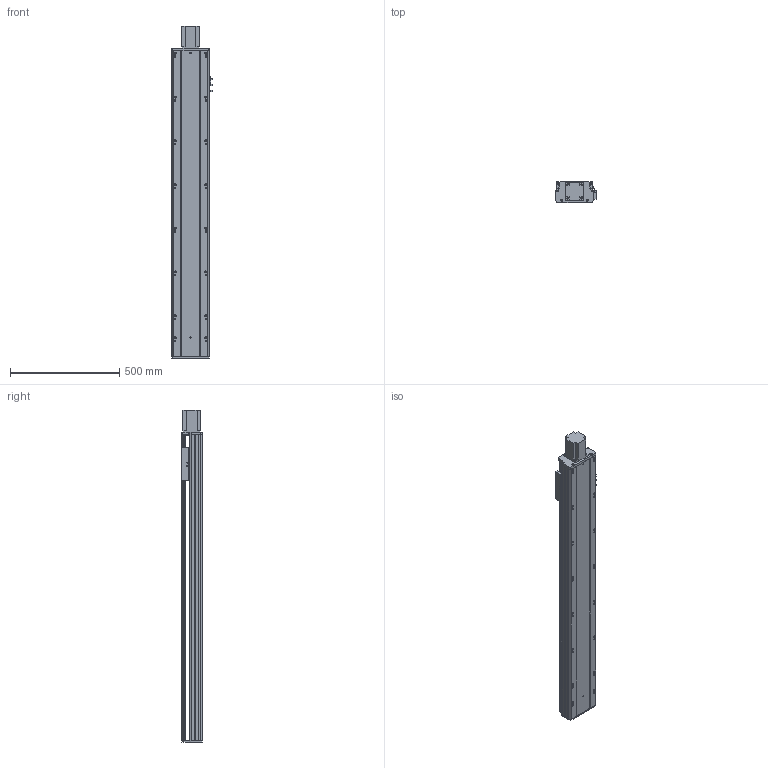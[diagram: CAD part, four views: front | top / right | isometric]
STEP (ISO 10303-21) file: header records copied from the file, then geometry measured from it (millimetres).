
FILE_DESCRIPTION (( 'STEP AP203' ), '1' );
FILE_NAME ('Y170-D10-S1150-BD-P750W.STEP', '2020-01-22T07:09:31', ( '微软用户' ), ( '微软中国' ), 'SwSTEP 2.0', 'SolidWorks 2017', '' );
FILE_SCHEMA (( 'CONFIG_CONTROL_DESIGN' ));
Length unit declared in the file: millimetre
Products named in the file (10): Y170耜裔--準---; Y170-陔遴奻裔-BD; Y170--雄赽釱-梓--; YD-Y100-135-新外置传感挡片(通用）; Y170-D10-S1150-BD-P750W; Y100-135俋离換覜ん; 170--掛极-BD; Y170-萇儂楊擘啣--; 135-盓傅釱-FK15; 侂狟750W
Assembly tree (11 placements, depth 2):
  Y170-D10-S1150-BD-P750W
    YD-Y100-135-新外置传感挡片(通用）
    Y100-135俋离換覜ん  x3
    170--掛极-BD
    Y170-萇儂楊擘啣--
    135-盓傅釱-FK15
    侂狟750W
    Y170耜裔--準---
    Y170-陔遴奻裔-BD
    Y170--雄赽釱-梓--
Bounding box: 183.5 x 97 x 1518.5 mm (x, y, z)
Volume: 6406776.9 mm3; surface area: 2183033.8 mm2
Topology: 11 solids, 11 shells, 840 faces, 2403 edges, 1592 vertices
Faces by surface type: cylinder 450, plane 388, torus 2
Entity records: 27551 total; most frequent: CARTESIAN_POINT 4995, DIRECTION 4585, ORIENTED_EDGE 4470, EDGE_CURVE 2235, AXIS2_PLACEMENT_3D 1654, VERTEX_POINT 1480, VECTOR 1277, LINE 1277
